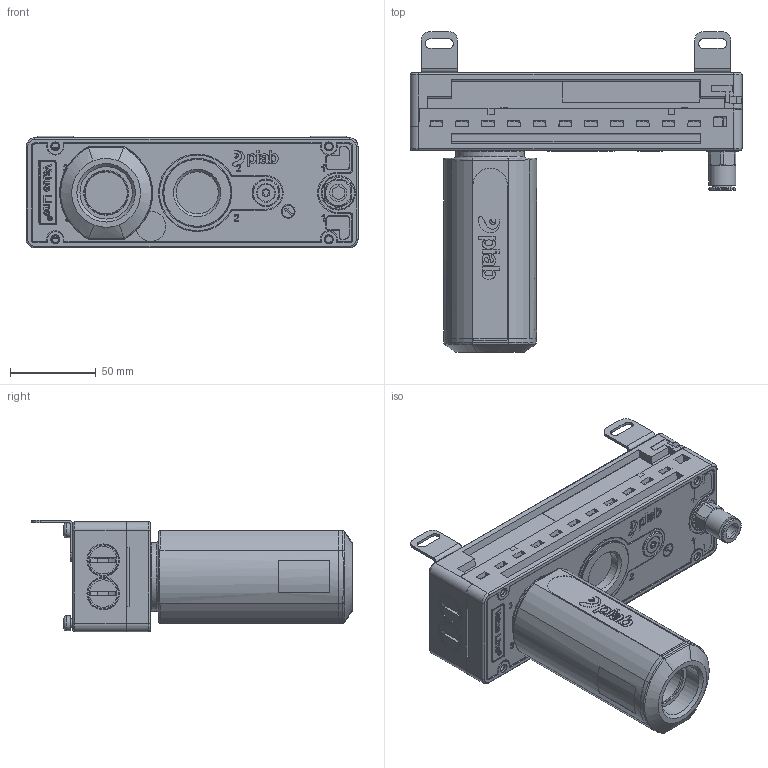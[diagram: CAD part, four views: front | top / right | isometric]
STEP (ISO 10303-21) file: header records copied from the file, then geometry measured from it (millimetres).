
FILE_DESCRIPTION(/* description */ ('Unknown'),/* implementation_level */ '2;1');
FILE_NAME(/* name */ 'ISM VLCLASSIC Midi Xi x2',/* time_stamp */ '2019-11-04T14:10:42+01:00',/* author */ ('Unknown'),/* organization */ ('Unknown'),/* preprocessor_version */ 'ST-DEVELOPER v16.7',/* originating_system */ 'DEX',/* authorisation */ $);
FILE_SCHEMA (('AUTOMOTIVE_DESIGN {1 0 10303 214 3 1 1}'));
Length unit declared in the file: millimetre
Products named in the file (1): Part2
Bounding box: 193.1 x 186.5 x 65 mm (x, y, z)
Volume: 706086.4 mm3; surface area: 162241.2 mm2
Topology: 1 solids, 48 shells, 3833 faces, 10456 edges, 6835 vertices
Faces by surface type: plane 2347, cylinder 777, cone 262, bspline 254, torus 178, sphere 15
Full cylindrical faces by diameter (mm): 2 x4, 4.559 x7, 5 x4, 7.06 x1, 7.5 x6, 8 x1, 8.7 x5, 10 x4, 10.3 x3, 11.2 x1, 11.445 x1, 11.8 x2, 12.2 x6, 12.6 x1, 14 x3, 15.5 x1, 15.75 x1, 15.8 x3, 16.2 x5, 17.5 x1, 17.7 x2, 19.8 x1, 20 x1, 24.5 x1, 26 x2, 29 x1, 29.057 x1, 30.5 x1, 39.8 x2, 40 x1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
Entity records: 149983 total; most frequent: CARTESIAN_POINT 31035, ORIENTED_EDGE 20290, DIRECTION 17218, EDGE_CURVE 10145, VERTEX_POINT 6739, AXIS2_PLACEMENT_3D 6034, LINE 5150, VECTOR 5150
